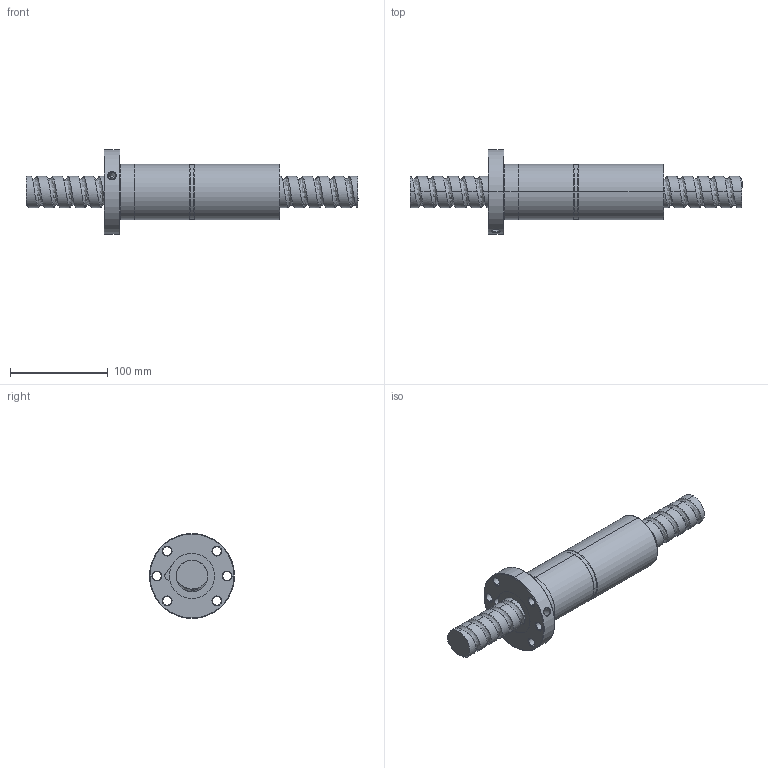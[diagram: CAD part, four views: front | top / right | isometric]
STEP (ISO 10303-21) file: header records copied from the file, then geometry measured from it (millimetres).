
FILE_DESCRIPTION (( 'STEP AP214' ), '1' );
FILE_NAME ('FDDC03216T4-F-A.STEP', '2010-07-06T05:18:09', ( 'XPAUTO' ), ( 'XPAUTO' ), 'SwSTEP 2.0', 'SolidWorks 2007', '' );
FILE_SCHEMA (( 'AUTOMOTIVE_DESIGN' ));
Length unit declared in the file: millimetre
Products named in the file (3): FDDC03216T4-F-A; FDDC03216T4-F-A.sldasm-Part-2_預設; FDDC03216T4-F-A.sldasm-Part-1_預設
Assembly tree (2 placements, depth 2):
  FDDC03216T4-F-A
    FDDC03216T4-F-A.sldasm-Part-1_預設
    FDDC03216T4-F-A.sldasm-Part-2_預設
Bounding box: 340 x 87 x 87 mm (x, y, z)
Volume: 607034.4 mm3; surface area: 104092.7 mm2
Topology: 2 solids, 2 shells, 141 faces, 353 edges, 221 vertices
Faces by surface type: cylinder 86, cone 24, plane 16, torus 10, bspline 5
Entity records: 26938 total; most frequent: CARTESIAN_POINT 23584, ORIENTED_EDGE 706, DIRECTION 653, EDGE_CURVE 353, AXIS2_PLACEMENT_3D 268, VERTEX_POINT 221, EDGE_LOOP 162, FACE_OUTER_BOUND 141
